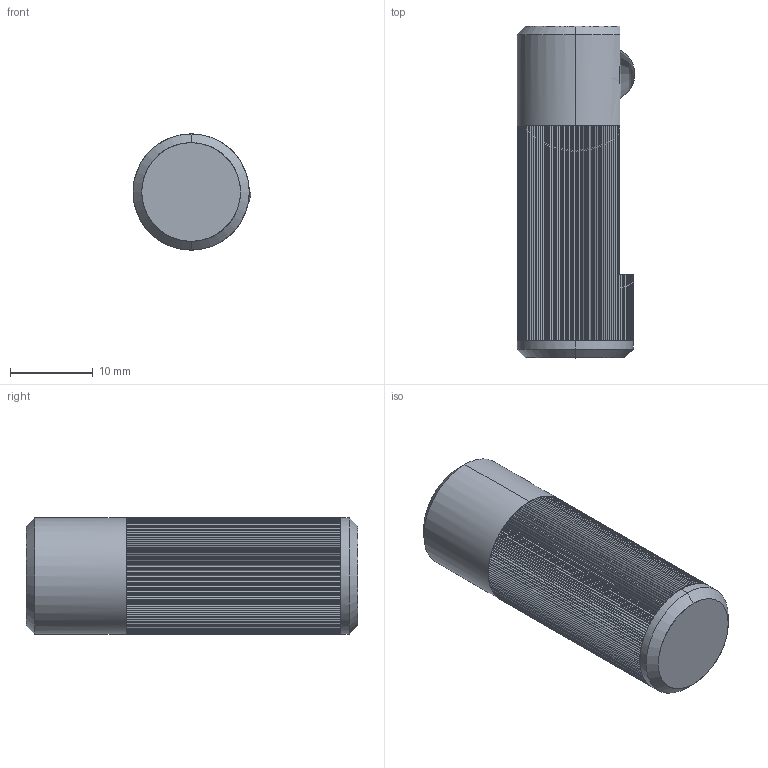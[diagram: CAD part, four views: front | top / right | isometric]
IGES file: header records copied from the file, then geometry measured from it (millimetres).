
Start section: SolidWorks IGES file using analytic representation for surfaces
Global section: file name: C:\Documents and Settings\IANO\Desktop\Temp File\Process pending\NEW\32800_v2\32800_v2_20170703_IGES\32800.W0014.igs; native system: SolidWorks 2009; preprocessor: SolidWorks 2009; author: IANO; date: 170630.124908; units: millimetre
Bounding box: 14.2 x 40 x 14 mm (x, y, z)
Surface area: 3420.8 mm2 (no closed solid volume)
Topology: 0 solids, 0 shells, 586 faces, 2787 edges, 2784 vertices
Faces by surface type: bspline 562, revolution 24
